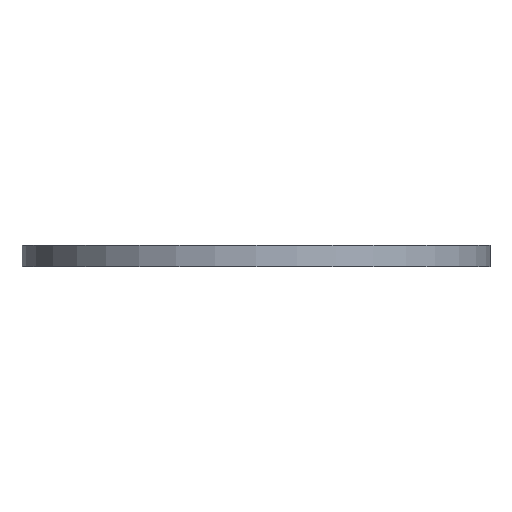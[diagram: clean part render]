
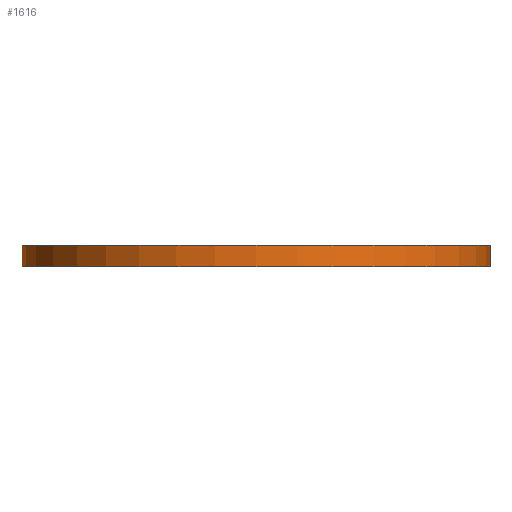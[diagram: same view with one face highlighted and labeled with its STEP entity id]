
A CAD part, front view. The second image highlights one B-rep face of the part: STEP entity #1616.
In plain terms, the highlighted cylindrical face has radius 55 mm (diameter 110 mm), a partial arc.
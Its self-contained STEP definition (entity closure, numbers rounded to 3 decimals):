
#2 = ORIENTED_EDGE ( 'NONE', *, *, #12, .F. ) ;
#12 = EDGE_CURVE ( 'NONE', #1599, #1590, #253, .T. ) ;
#197 = DIRECTION ( 'NONE',  ( 0., 0., 1. ) ) ;
#202 = AXIS2_PLACEMENT_3D ( 'NONE', #203, #197, #248 ) ;
#203 = CARTESIAN_POINT ( 'NONE',  ( 0., 0., 5. ) ) ;
#248 = DIRECTION ( 'NONE',  ( 1., 0., 0. ) ) ;
#253 = CIRCLE ( 'NONE', #202, 55. ) ;
#932 = CIRCLE ( 'NONE', #991, 55. ) ;
#957 = CARTESIAN_POINT ( 'NONE',  ( -55., 0., 0. ) ) ;
#986 = DIRECTION ( 'NONE',  ( 0., 0., -1. ) ) ;
#987 = VECTOR ( 'NONE', #986, 1000. ) ;
#989 = DIRECTION ( 'NONE',  ( 1., 0., 0. ) ) ;
#990 = DIRECTION ( 'NONE',  ( 0., 0., 1. ) ) ;
#991 = AXIS2_PLACEMENT_3D ( 'NONE', #997, #990, #989 ) ;
#995 = CARTESIAN_POINT ( 'NONE',  ( -55., 0., 5. ) ) ;
#996 = LINE ( 'NONE', #995, #987 ) ;
#997 = CARTESIAN_POINT ( 'NONE',  ( 0., 0., 0. ) ) ;
#1081 = CARTESIAN_POINT ( 'NONE',  ( 55., 0., 5. ) ) ;
#1094 = CYLINDRICAL_SURFACE ( 'NONE', #1154, 55. ) ;
#1101 = DIRECTION ( 'NONE',  ( 0., 0., -1. ) ) ;
#1124 = CARTESIAN_POINT ( 'NONE',  ( -55., 0., 5. ) ) ;
#1134 = DIRECTION ( 'NONE',  ( 0., 0., -1. ) ) ;
#1135 = VECTOR ( 'NONE', #1134, 1000. ) ;
#1136 = CARTESIAN_POINT ( 'NONE',  ( 55., 0., 5. ) ) ;
#1137 = LINE ( 'NONE', #1136, #1135 ) ;
#1145 = DIRECTION ( 'NONE',  ( -1., 0., 0. ) ) ;
#1150 = FACE_OUTER_BOUND ( 'NONE', #1592, .T. ) ;
#1151 = CARTESIAN_POINT ( 'NONE',  ( 55., 0., 0. ) ) ;
#1153 = CARTESIAN_POINT ( 'NONE',  ( 0., 0., 5. ) ) ;
#1154 = AXIS2_PLACEMENT_3D ( 'NONE', #1153, #1101, #1145 ) ;
#1515 = ORIENTED_EDGE ( 'NONE', *, *, #1522, .T. ) ;
#1518 = VERTEX_POINT ( 'NONE', #957 ) ;
#1519 = ORIENTED_EDGE ( 'NONE', *, *, #1523, .T. ) ;
#1522 = EDGE_CURVE ( 'NONE', #1518, #1615, #932, .T. ) ;
#1523 = EDGE_CURVE ( 'NONE', #1599, #1518, #996, .T. ) ;
#1590 = VERTEX_POINT ( 'NONE', #1081 ) ;
#1592 = EDGE_LOOP ( 'NONE', ( #1600, #2, #1519, #1515 ) ) ;
#1599 = VERTEX_POINT ( 'NONE', #1124 ) ;
#1600 = ORIENTED_EDGE ( 'NONE', *, *, #1625, .F. ) ;
#1615 = VERTEX_POINT ( 'NONE', #1151 ) ;
#1616 = ADVANCED_FACE ( 'NONE', ( #1150 ), #1094, .T. ) ;
#1625 = EDGE_CURVE ( 'NONE', #1590, #1615, #1137, .T. ) ;
